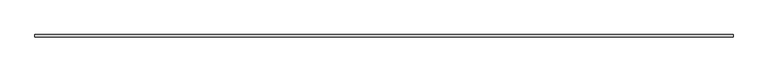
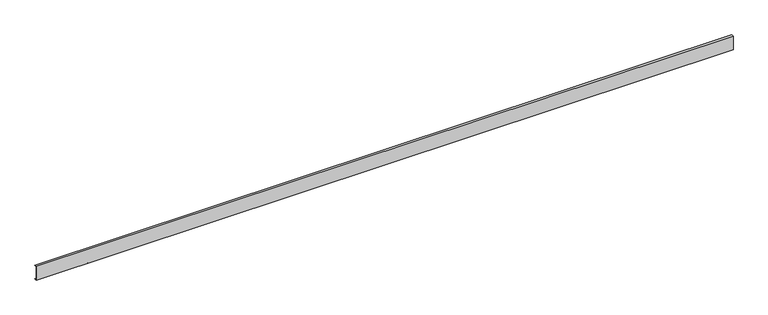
"""IFC4 building model written with IfcOpenShell, lengths in millimetres: beam geometry,  132089 :  132089."""

import ifcopenshell
import ifcopenshell.guid

model = None  # the IFC model being written
_history = None  # IfcOwnerHistory: only IFC2X3 demands one
_inside = {}  # id of a spatial element -> (the spatial element, [elements in it])
_under = {}  # id of a project, library or spatial element -> (it, [spatial elements below it])
_declared = {}  # id of a project -> (the project, [libraries it declares])
_typed = {}  # id of a type object -> (the type object, [elements of that type])
_made_of = {}  # id of a material, layer set ... -> (it, [elements and type objects made of it])


def new_model(schema):
    """Start an empty IFC model of exactly this schema.

    Asked for "IFC4X3", IfcOpenShell would pick the latest addendum, in which some entities
    have other attributes; the version numbers below select the first issue.
    IFC2X3 requires an IfcOwnerHistory on every rooted entity: one is made here for all.
    """
    global model, _history
    if schema == "IFC4X3":
        model = ifcopenshell.file(schema_version=(4, 3, 0, 0))
    else:
        model = ifcopenshell.file(schema=schema)
    _inside.clear()
    _under.clear()
    _declared.clear()
    _typed.clear()
    _made_of.clear()
    _history = None
    if model.schema == "IFC2X3":
        org = make("IfcOrganization", Name="unknown")
        user = make(
            "IfcPersonAndOrganization",
            ThePerson=make("IfcPerson", FamilyName="unknown"),
            TheOrganization=org,
        )
        app = make(
            "IfcApplication",
            ApplicationDeveloper=org,
            Version="unknown",
            ApplicationFullName="unknown",
            ApplicationIdentifier="unknown",
        )
        _history = make(
            "IfcOwnerHistory",
            OwningUser=user,
            OwningApplication=app,
            ChangeAction="ADDED",
            CreationDate=0,
        )
    return model


def make(cls, **values):
    """One entity of the class cls with the attributes given. An attribute that is None is left unset."""
    return model.create_entity(
        cls, **{name: value for name, value in values.items() if value is not None}
    )


def rooted(cls, **values):
    """An entity with a GlobalId (a new one), such as an element, a storey or a relation."""
    return make(cls, GlobalId=ifcopenshell.guid.new(), OwnerHistory=_history, **values)


def si_unit(unit_type, name, prefix=None):
    """IfcSIUnit, for example si_unit("LENGTHUNIT", "METRE", prefix="MILLI")."""
    return make("IfcSIUnit", UnitType=unit_type, Prefix=prefix, Name=name)


def assignment(units):
    """IfcUnitAssignment: the units of a project."""
    return None if units is None else make("IfcUnitAssignment", Units=units)


def point(xyz):
    """IfcCartesianPoint."""
    return None if xyz is None else make("IfcCartesianPoint", Coordinates=xyz)


def direction(xyz):
    """IfcDirection."""
    return None if xyz is None else make("IfcDirection", DirectionRatios=xyz)


def frame(location, z_axis=None, x_axis=None):
    """IfcAxis2Placement3D, a coordinate frame: its origin and axes. An axis left out is left unset."""
    return make(
        "IfcAxis2Placement3D",
        Location=point(location),
        Axis=direction(z_axis),
        RefDirection=direction(x_axis),
    )


def origin():
    """The frame at (0, 0, 0) with its axes left unset."""
    return frame((0.0, 0.0, 0.0))


def place(relative_to, where):
    """IfcLocalPlacement: puts the frame where relative to a parent placement (None: the world)."""
    return make(
        "IfcLocalPlacement", PlacementRelTo=relative_to, RelativePlacement=where
    )


def context(
    kind, dimensions, precision=None, world=None, true_north=None, identifier=None
):
    """IfcGeometricRepresentationContext, for example the 3D "Model" context."""
    return make(
        "IfcGeometricRepresentationContext",
        ContextIdentifier=identifier,
        ContextType=kind,
        CoordinateSpaceDimension=dimensions,
        Precision=precision,
        WorldCoordinateSystem=world,
        TrueNorth=true_north,
    )


def project(units=None, contexts=None):
    """IfcProject with its units and contexts."""
    return rooted(
        "IfcProject",
        Name="project",
        RepresentationContexts=contexts,
        UnitsInContext=assignment(units),
    )


def spatial(cls, under=None, at=None, **own):
    """A site, building, storey or space (cls), placed at a placement, below another one or the project."""
    s = rooted(cls, ObjectPlacement=at, **own)
    if under is not None:
        _under.setdefault(under.id(), (under, []))[1].append(s)
    return s


def polyline(points):
    """IfcPolyline through the points."""
    return make("IfcPolyline", Points=[point(p) for p in points])


def outline(outer, holes=None, kind="AREA"):
    """IfcArbitraryClosedProfileDef: a profile drawn as a closed curve; with holes, ...WithVoids."""
    if holes is None:
        return make("IfcArbitraryClosedProfileDef", ProfileType=kind, OuterCurve=outer)
    return make(
        "IfcArbitraryProfileDefWithVoids",
        ProfileType=kind,
        OuterCurve=outer,
        InnerCurves=holes,
    )


def extrude(swept, where, along, depth):
    """IfcExtrudedAreaSolid: the profile swept, set in the frame where, extruded along a direction by depth."""
    return make(
        "IfcExtrudedAreaSolid",
        SweptArea=swept,
        Position=where,
        ExtrudedDirection=direction(along),
        Depth=depth,
    )


def shape(context_of_items, identifier, shape_type, items):
    """IfcShapeRepresentation: the items that make up one representation, for example the "Body"."""
    return make(
        "IfcShapeRepresentation",
        ContextOfItems=context_of_items,
        RepresentationIdentifier=identifier,
        RepresentationType=shape_type,
        Items=items,
    )


def source(mapping_origin, context_of_items, identifier, shape_type, items):
    """IfcRepresentationMap: a shape defined once, which mapped items show again and again."""
    return make(
        "IfcRepresentationMap",
        MappingOrigin=mapping_origin,
        MappedRepresentation=shape(context_of_items, identifier, shape_type, items),
    )


def transform(
    local_origin,
    x_axis=None,
    y_axis=None,
    z_axis=None,
    scale=None,
    scale2=None,
    scale3=None,
    uniform=True,
):
    """IfcCartesianTransformationOperator3D, or its non-uniform kind. x_axis, y_axis, z_axis: its Axis1, 2, 3."""
    if uniform:
        return make(
            "IfcCartesianTransformationOperator3D",
            Axis1=direction(x_axis),
            Axis2=direction(y_axis),
            LocalOrigin=point(local_origin),
            Scale=scale,
            Axis3=direction(z_axis),
        )
    return make(
        "IfcCartesianTransformationOperator3DnonUniform",
        Axis1=direction(x_axis),
        Axis2=direction(y_axis),
        LocalOrigin=point(local_origin),
        Scale=scale,
        Axis3=direction(z_axis),
        Scale2=scale2,
        Scale3=scale3,
    )


def mapped(mapping_source, mapping_target):
    """IfcMappedItem: shows the shape of a source again, moved by a transform."""
    return make(
        "IfcMappedItem", MappingSource=mapping_source, MappingTarget=mapping_target
    )


def made_of(thing, what):
    """Note that an element or type object is made of a material, layer set ...; save() writes the relation."""
    if what is not None:
        _made_of.setdefault(what.id(), (what, []))[1].append(thing)
    return thing


def element(
    cls,
    number,
    at=None,
    inside=None,
    cuts=None,
    type_object=None,
    material=None,
    context=None,
    identifier="Body",
    shape_type=None,
    held_by="IfcProductDefinitionShape",
    body=None,
    shapes=None,
    **own,
):
    """One element of the class cls, such as IfcWall. Its Tag is "e" and its number.

    at: its placement. inside: the storey or other place that contains it. cuts: it is an
    opening in that element (IfcRelVoidsElement). A single representation is given by context,
    identifier, shape_type and body (its items); several are given by shapes. held_by: the class
    of the entity that holds the representations. save() writes the other relations.
    """
    e = rooted(cls, Tag="e%d" % number, ObjectPlacement=at, **own)
    if body is not None:
        shapes = [shape(context, identifier, shape_type, body)]
    if shapes is not None:
        e.Representation = make(held_by, Representations=shapes)
    if inside is not None:
        _inside.setdefault(inside.id(), (inside, []))[1].append(e)
    if cuts is not None:
        rooted(
            "IfcRelVoidsElement", RelatingBuildingElement=cuts, RelatedOpeningElement=e
        )
    if type_object is not None:
        _typed.setdefault(type_object.id(), (type_object, []))[1].append(e)
    return made_of(e, material)


def aggregate(whole, parts):
    """IfcRelAggregates: a whole, such as a stair, and the parts it consists of."""
    return rooted("IfcRelAggregates", RelatingObject=whole, RelatedObjects=parts)


def save(model, path):
    """Write the relations noted so far, then the file.

    IfcRelAggregates (storeys below a building ...), IfcRelContainedInSpatialStructure (elements
    in a storey), IfcRelDefinesByType, IfcRelAssociatesMaterial and IfcRelDeclares: one each for
    every whole, place, type object, material and project.
    """
    for whole, parts in _under.values():
        aggregate(whole, parts)
    for where, things in _inside.values():
        rooted(
            "IfcRelContainedInSpatialStructure",
            RelatedElements=things,
            RelatingStructure=where,
        )
    for kind, things in _typed.values():
        rooted("IfcRelDefinesByType", RelatedObjects=things, RelatingType=kind)
    for what, things in _made_of.values():
        rooted("IfcRelAssociatesMaterial", RelatedObjects=things, RelatingMaterial=what)
    for by, libraries in _declared.values():
        rooted("IfcRelDeclares", RelatingContext=by, RelatedDefinitions=libraries)
    model.write(path)


def beam_3ef0ea6d(model_context):
    return source(origin(), model_context, "Body", "SweptSolid", [
        extrude(outline(polyline([(-35716.5, 8290.0), (-35666.5, 8290.0), (-35666.5, 8285.0), (-35711.5, 8285.0), (-35711.5, 7975.0), (-35666.5, 7975.0), (-35666.5, 7970.0), (-35716.5, 7970.0), (-35716.5, 8290.0)])), frame((-180.0000001, 0.0, 0.0), z_axis=(1.0, 0.0, 0.0), x_axis=(0.0, 1.0, 0.0)), (0.0, 0.0, 1.0), 15570.0),
    ])


if __name__ == "__main__":
    model = new_model("IFC4")
    model_context = context("Model", 3, world=origin())
    ifc_project = project(units=[si_unit("LENGTHUNIT", "METRE", prefix="MILLI")], contexts=[model_context])
    site = spatial("IfcSite", under=ifc_project)
    building = spatial("IfcBuilding", under=site)
    placement = place(None, origin())
    beam_shape = beam_3ef0ea6d(model_context)
    element("IfcBeam", 1, ObjectType=" 132089 :  132089", at=placement, inside=building, context=model_context, shape_type="MappedRepresentation", body=[
        mapped(beam_shape, transform((0.0, 0.0, 0.0), x_axis=(1.0, 0.0, 0.0), y_axis=(0.0, 1.0, 0.0), z_axis=(0.0, 0.0, 1.0))),
    ])
    save(model, "model.ifc")
